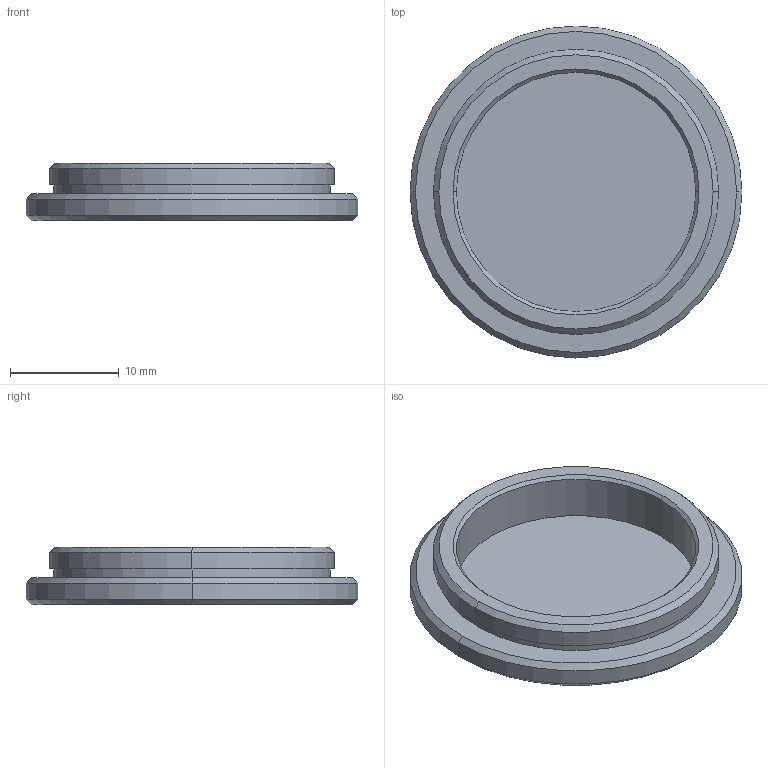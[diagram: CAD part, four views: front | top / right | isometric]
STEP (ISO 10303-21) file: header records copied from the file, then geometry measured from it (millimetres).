
FILE_DESCRIPTION (( 'STEP AP203' ), '1' );
FILE_NAME ('CSC1-SM1.STEP', '2024-03-28T03:20:37', ( '' ), ( '' ), 'SwSTEP 2.0', 'SolidWorks 2021', '' );
FILE_SCHEMA (( 'CONFIG_CONTROL_DESIGN' ));
Length unit declared in the file: millimetre
Products named in the file (1): CSC1-SM1
Bounding box: 30.5 x 30.5 x 5.3 mm (x, y, z)
Surface area: 2173 mm2 (no closed solid volume)
Topology: 0 solids, 4 shells, 96 faces, 578 edges, 474 vertices
Faces by surface type: plane 54, bspline 26, cone 8, cylinder 8
Entity records: 7816 total; most frequent: CARTESIAN_POINT 3727, ORIENTED_EDGE 758, DIRECTION 644, EDGE_CURVE 578, VERTEX_POINT 474, VECTOR 454, LINE 454, EDGE_LOOP 116
